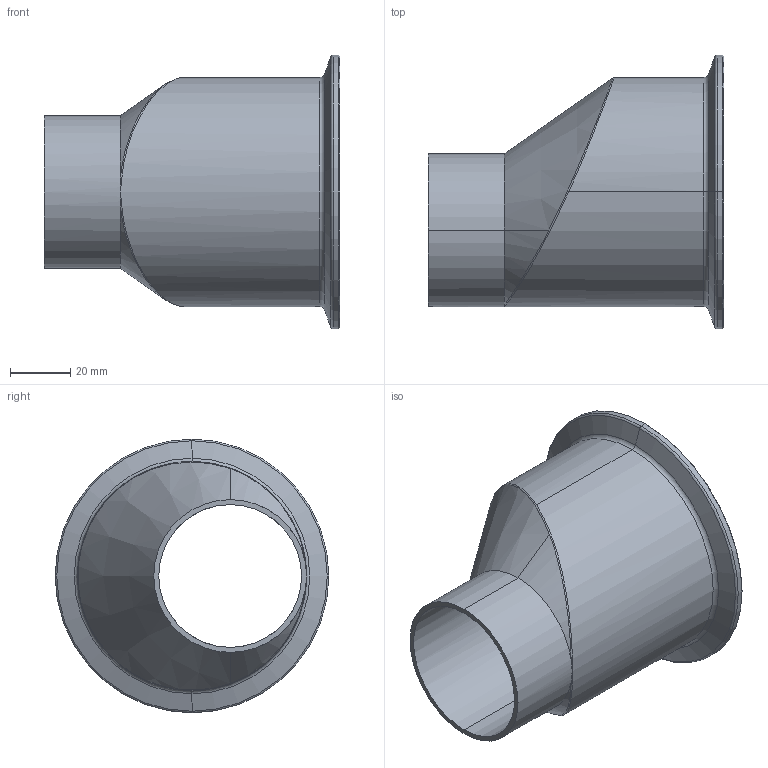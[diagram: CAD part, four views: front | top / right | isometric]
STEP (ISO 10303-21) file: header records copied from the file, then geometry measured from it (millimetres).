
FILE_DESCRIPTION (( 'STEP AP214' ), '1' );
FILE_NAME ('TE32SCW6L3.0x2.0-...STEP', '2016-06-01T10:28:32', ( 'eran' ), ( '' ), 'SwSTEP 2.0', 'SolidWorks 2016', '' );
FILE_SCHEMA (( 'AUTOMOTIVE_DESIGN' ));
Length unit declared in the file: millimetre
Products named in the file (1): TE32SCW6L3.0x2.0-..
Bounding box: 98.42 x 91 x 91 mm (x, y, z)
Volume: 121217.5 mm3; surface area: 42974.8 mm2
Topology: 1 solids, 1 shells, 47 faces, 104 edges, 56 vertices
Faces by surface type: cone 16, torus 13, cylinder 10, bspline 5, plane 3
Entity records: 2104 total; most frequent: CARTESIAN_POINT 1067, DIRECTION 228, ORIENTED_EDGE 200, AXIS2_PLACEMENT_3D 102, EDGE_CURVE 100, CIRCLE 59, VERTEX_POINT 56, EDGE_LOOP 50
